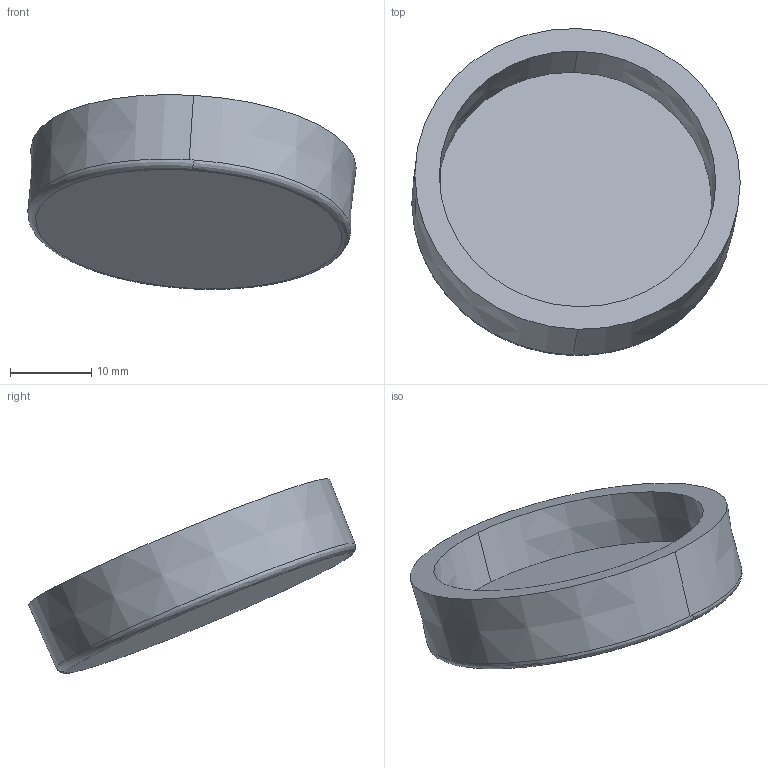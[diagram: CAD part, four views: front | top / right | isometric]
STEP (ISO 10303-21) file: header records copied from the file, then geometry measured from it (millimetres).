
FILE_DESCRIPTION (( 'STEP AP203' ), '1' );
FILE_NAME ('Capuchon port photo_2_Défaut_sldprt.STEP', '2018-04-06T14:28:39', ( '' ), ( '' ), 'SwSTEP 2.0', 'SolidWorks 2013', '' );
FILE_SCHEMA (( 'CONFIG_CONTROL_DESIGN' ));
Length unit declared in the file: millimetre
Products named in the file (1): Capuchon port photo_2_Défaut_sldprt
Bounding box: 40.3 x 40.14 x 23.9 mm (x, y, z)
Volume: 5952.3 mm3; surface area: 4309.9 mm2
Topology: 1 solids, 1 shells, 9 faces, 18 edges, 12 vertices
Faces by surface type: cone 4, plane 3, bspline 2
Entity records: 343 total; most frequent: CARTESIAN_POINT 76, DIRECTION 44, ORIENTED_EDGE 36, AXIS2_PLACEMENT_3D 20, EDGE_CURVE 18, VERTEX_POINT 12, CIRCLE 12, EDGE_LOOP 10
